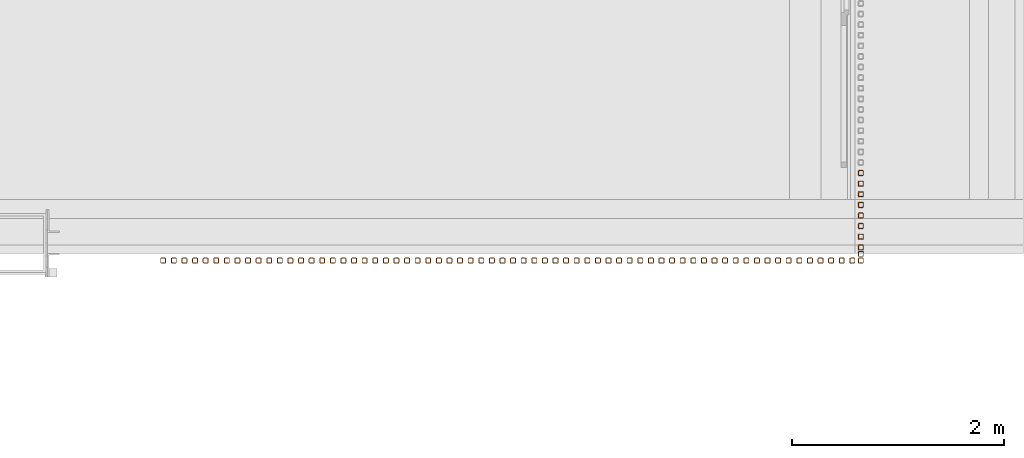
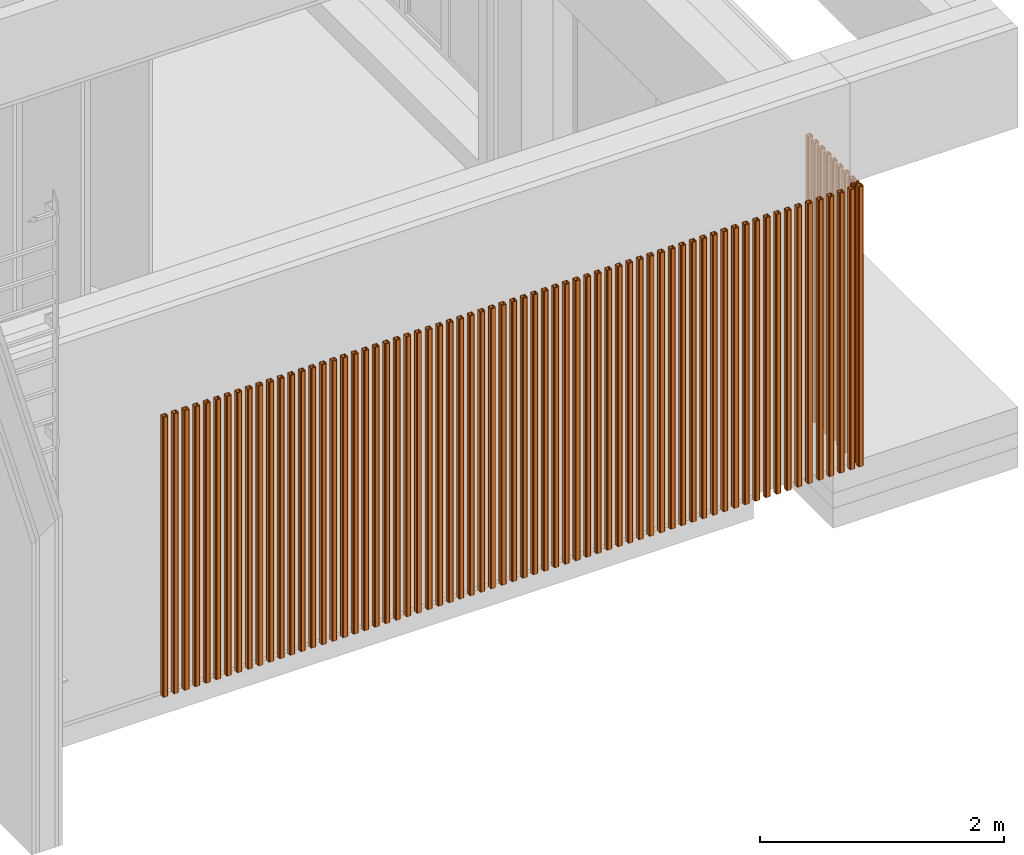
# One storey, part 66 of 112: 76 proxies.
"""IFC2X3 building model written with IfcOpenShell, lengths in millimetres."""

from ifc_helpers import new_model, entity, si_unit, converted_unit, derived_unit, money_unit, direction, frame, origin_with_axes, place, context, subcontext, project, spatial, faceted_brep, source, transform, mapped, material, type_object, element, save


model = new_model("IFC2X3")

# Units and contexts
model_context = context("Model", 3, precision=0.01, world=origin_with_axes(), true_north=direction((0.0, 1.0)))
body_context = subcontext(model_context, "Body", "Model", "MODEL_VIEW")
ifc_project = project(units=[si_unit("LENGTHUNIT", "METRE", prefix="MILLI"), si_unit("AREAUNIT", "SQUARE_METRE"), si_unit("VOLUMEUNIT", "CUBIC_METRE"), converted_unit("PLANEANGLEUNIT", "DEGREE", entity("IfcPlaneAngleMeasure", 0.0174532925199), si_unit("PLANEANGLEUNIT", "RADIAN"), dimensions=[0, 0, 0, 0, 0, 0, 0]), si_unit("SOLIDANGLEUNIT", "STERADIAN"), money_unit("EUR"), converted_unit("TIMEUNIT", "Year", entity("IfcTimeMeasure", 31556926.0), si_unit("TIMEUNIT", "SECOND"), dimensions=[0, 0, 1, 0, 0, 0, 0]), si_unit("MASSUNIT", "GRAM", prefix="KILO"), si_unit("THERMODYNAMICTEMPERATUREUNIT", "DEGREE_CELSIUS"), si_unit("LUMINOUSINTENSITYUNIT", "LUMEN"), si_unit("ENERGYUNIT", "JOULE", prefix="MEGA"), derived_unit("THERMALCONDUCTANCEUNIT", [(si_unit("POWERUNIT", "WATT"), 1), (si_unit("LENGTHUNIT", "METRE"), -1), (si_unit("THERMODYNAMICTEMPERATUREUNIT", "KELVIN"), -1)]), derived_unit("SPECIFICHEATCAPACITYUNIT", [(si_unit("ENERGYUNIT", "JOULE"), 1), (si_unit("MASSUNIT", "GRAM", prefix="KILO"), -1), (si_unit("THERMODYNAMICTEMPERATUREUNIT", "KELVIN"), -1)]), derived_unit("MASSDENSITYUNIT", [(si_unit("MASSUNIT", "GRAM", prefix="KILO"), 1), (si_unit("VOLUMEUNIT", "CUBIC_METRE"), -1)])], contexts=[model_context])

# Site, building, storey
site_placement = place(None, origin_with_axes())
site = spatial("IfcSite", under=ifc_project, at=site_placement, Name="Politse- ja Piirivalveameti ning Päästeameti ühishoone", CompositionType="ELEMENT")
building_placement = place(site_placement, origin_with_axes())
building = spatial("IfcBuilding", under=site, at=building_placement, Name="Politse- ja Piirivalveameti ning Päästeameti ühishoone", CompositionType="ELEMENT")
storey_placement = place(building_placement, origin_with_axes())
storey = spatial("IfcBuildingStorey", under=building, at=storey_placement, Name="Esimene korrus", CompositionType="ELEMENT", Elevation=0.0)

# Proxies
ifc_material = material(Name="ET-05_Teras")
building_element_proxy_type = type_object("IfcBuildingElementProxyType", Name="SHS Cold-Formed Column 23", PredefinedType="NOTDEFINED")
shared_shape = source(origin_with_axes(), body_context, "Body", "Brep", [
    faceted_brep([(-17.0, -25.0, 0.0), (17.0, -25.0, 0.0), (17.0, -25.0, 2800.0), (-17.0, -25.0, 2800.0), (-22.6568542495, -22.6568542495, 0.0), (-25.0, -17.0, 0.0), (-25.0, 17.0, 0.0), (-22.6568542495, 22.6568542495, 0.0), (-17.0, 25.0, 0.0), (17.0, 25.0, 0.0), (22.6568542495, 22.6568542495, 0.0), (25.0, 17.0, 0.0), (25.0, -17.0, 0.0), (22.6568542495, -22.6568542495, 0.0), (-17.0, -21.0, 0.0), (17.0, -21.0, 0.0), (19.8284271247, -19.8284271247, 0.0), (21.0, -17.0, 0.0), (21.0, 17.0, 0.0), (19.8284271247, 19.8284271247, 0.0), (17.0, 21.0, 0.0), (-17.0, 21.0, 0.0), (-19.8284271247, 19.8284271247, 0.0), (-21.0, 17.0, 0.0), (-21.0, -17.0, 0.0), (-19.8284271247, -19.8284271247, 0.0), (22.6568542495, -22.6568542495, 2800.0), (25.0, -17.0, 2800.0), (25.0, 17.0, 2800.0), (22.6568542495, 22.6568542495, 2800.0), (17.0, 25.0, 2800.0), (-17.0, 25.0, 2800.0), (-22.6568542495, 22.6568542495, 2800.0), (-25.0, 17.0, 2800.0), (-25.0, -17.0, 2800.0), (-22.6568542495, -22.6568542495, 2800.0), (-17.0, -21.0, 2800.0), (-19.8284271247, -19.8284271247, 2800.0), (-21.0, -17.0, 2800.0), (-21.0, 17.0, 2800.0), (-19.8284271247, 19.8284271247, 2800.0), (-17.0, 21.0, 2800.0), (17.0, 21.0, 2800.0), (19.8284271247, 19.8284271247, 2800.0), (21.0, 17.0, 2800.0), (21.0, -17.0, 2800.0), (19.8284271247, -19.8284271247, 2800.0), (17.0, -21.0, 2800.0)], [[[0, 1, 2, 3]], [[0, 4, 5, 6, 7, 8, 9, 10, 11, 12, 13, 1], [14, 15, 16, 17, 18, 19, 20, 21, 22, 23, 24, 25]], [[1, 13, 26, 2]], [[3, 2, 26, 27, 28, 29, 30, 31, 32, 33, 34, 35], [36, 37, 38, 39, 40, 41, 42, 43, 44, 45, 46, 47]], [[4, 0, 3, 35]], [[5, 4, 35, 34]], [[6, 5, 34, 33]], [[7, 6, 33, 32]], [[8, 7, 32, 31]], [[9, 8, 31, 30]], [[10, 9, 30, 29]], [[11, 10, 29, 28]], [[12, 11, 28, 27]], [[13, 12, 27, 26]], [[15, 14, 36, 47]], [[16, 15, 47, 46]], [[17, 16, 46, 45]], [[18, 17, 45, 44]], [[19, 18, 44, 43]], [[20, 19, 43, 42]], [[21, 20, 42, 41]], [[22, 21, 41, 40]], [[23, 22, 40, 39]], [[24, 23, 39, 38]], [[25, 24, 38, 37]], [[14, 25, 37, 36]]]),
])
for number, where, z_axis, x_axis in (
    (1, (62155.5638285, -575.0, 0.0), (0.0, 0.0, 1.0), (0.0, -1.0, 0.0)),
    (2, (62055.5638285, -575.0, 0.0), (0.0, 0.0, 1.0), (0.0, -1.0, 0.0)),
    (3, (62455.5638285, -575.0, 0.0), (0.0, 0.0, 1.0), (0.0, -1.0, 0.0)),
    (4, (62555.5638285, -575.0, 0.0), (0.0, 0.0, 1.0), (0.0, -1.0, 0.0)),
    (5, (62655.5638285, -575.0, 0.0), (0.0, 0.0, 1.0), (0.0, -1.0, 0.0)),
    (6, (62755.5638285, -575.0, 0.0), (0.0, 0.0, 1.0), (0.0, -1.0, 0.0)),
    (7, (62855.5638285, -575.0, 0.0), (0.0, 0.0, 1.0), (0.0, -1.0, 0.0)),
    (8, (62955.5638285, -575.0, 0.0), (0.0, 0.0, 1.0), (0.0, -1.0, 0.0)),
    (9, (63055.5638285, -575.0, 0.0), (0.0, 0.0, 1.0), (0.0, -1.0, 0.0)),
    (10, (63155.5638285, -575.0, 0.0), (0.0, 0.0, 1.0), (0.0, -1.0, 0.0)),
    (11, (63255.5638285, -575.0, 0.0), (0.0, 0.0, 1.0), (0.0, -1.0, 0.0)),
    (12, (63355.5638285, -575.0, 0.0), (0.0, 0.0, 1.0), (0.0, -1.0, 0.0)),
    (13, (63455.5638285, -575.0, 0.0), (0.0, 0.0, 1.0), (0.0, -1.0, 0.0)),
    (14, (63555.5638285, -575.0, 0.0), (0.0, 0.0, 1.0), (0.0, -1.0, 0.0)),
    (15, (63655.5638285, -575.0, 0.0), (0.0, 0.0, 1.0), (0.0, -1.0, 0.0)),
    (16, (63755.5638285, -575.0, 0.0), (0.0, 0.0, 1.0), (0.0, -1.0, 0.0)),
    (17, (63855.5638285, -575.0, 0.0), (0.0, 0.0, 1.0), (0.0, -1.0, 0.0)),
    (18, (63955.5638285, -575.0, 0.0), (0.0, 0.0, 1.0), (0.0, -1.0, 0.0)),
    (19, (64055.5638285, -575.0, 0.0), (0.0, 0.0, 1.0), (0.0, -1.0, 0.0)),
    (20, (64155.5638285, -575.0, 0.0), (0.0, 0.0, 1.0), (0.0, -1.0, 0.0)),
    (21, (64255.5638285, -575.0, 0.0), (0.0, 0.0, 1.0), (0.0, -1.0, 0.0)),
    (22, (64355.5638285, -575.0, 0.0), (0.0, 0.0, 1.0), (0.0, -1.0, 0.0)),
    (23, (64455.5638285, -575.0, 0.0), (0.0, 0.0, 1.0), (0.0, -1.0, 0.0)),
    (24, (64555.5638285, -575.0, 0.0), (0.0, 0.0, 1.0), (0.0, -1.0, 0.0)),
    (25, (64655.5638285, -575.0, 0.0), (0.0, 0.0, 1.0), (0.0, -1.0, 0.0)),
    (26, (64755.5638285, -575.0, 0.0), (0.0, 0.0, 1.0), (0.0, -1.0, 0.0)),
    (27, (64855.5638285, -575.0, 0.0), (0.0, 0.0, 1.0), (0.0, -1.0, 0.0)),
    (28, (64955.5638285, -575.0, 0.0), (0.0, 0.0, 1.0), (0.0, -1.0, 0.0)),
    (29, (65055.5638285, -575.0, 0.0), (0.0, 0.0, 1.0), (0.0, -1.0, 0.0)),
    (30, (65155.5638285, -575.0, 0.0), (0.0, 0.0, 1.0), (0.0, -1.0, 0.0)),
    (31, (65255.5638285, -575.0, 0.0), (0.0, 0.0, 1.0), (0.0, -1.0, 0.0)),
    (32, (65355.5638285, -575.0, 0.0), (0.0, 0.0, 1.0), (0.0, -1.0, 0.0)),
    (33, (65455.5638285, -575.0, 0.0), (0.0, 0.0, 1.0), (0.0, -1.0, 0.0)),
    (34, (68555.5638285, -575.0, 0.0), (0.0, 0.0, 1.0), (0.0, -1.0, 0.0)),
    (35, (62355.5638285, -575.0, 0.0), (0.0, 0.0, 1.0), (0.0, -1.0, 0.0)),
    (36, (62255.5638285, -575.0, 0.0), (0.0, 0.0, 1.0), (0.0, -1.0, 0.0)),
    (37, (68455.5638285, -575.0, 0.0), (0.0, 0.0, 1.0), (0.0, -1.0, 0.0)),
    (38, (68355.5638285, -575.0, 0.0), (0.0, 0.0, 1.0), (0.0, -1.0, 0.0)),
    (39, (68255.5638285, -575.0, 0.0), (0.0, 0.0, 1.0), (0.0, -1.0, 0.0)),
    (40, (68155.5638285, -575.0, 0.0), (0.0, 0.0, 1.0), (0.0, -1.0, 0.0)),
    (41, (68055.5638285, -575.0, 0.0), (0.0, 0.0, 1.0), (0.0, -1.0, 0.0)),
    (42, (67955.5638285, -575.0, 0.0), (0.0, 0.0, 1.0), (0.0, -1.0, 0.0)),
    (43, (67855.5638285, -575.0, 0.0), (0.0, 0.0, 1.0), (0.0, -1.0, 0.0)),
    (44, (67755.5638285, -575.0, 0.0), (0.0, 0.0, 1.0), (0.0, -1.0, 0.0)),
    (45, (67655.5638285, -575.0, 0.0), (0.0, 0.0, 1.0), (0.0, -1.0, 0.0)),
    (46, (67555.5638285, -575.0, 0.0), (0.0, 0.0, 1.0), (0.0, -1.0, 0.0)),
    (47, (67455.5638285, -575.0, 0.0), (0.0, 0.0, 1.0), (0.0, -1.0, 0.0)),
    (48, (67355.5638285, -575.0, 0.0), (0.0, 0.0, 1.0), (0.0, -1.0, 0.0)),
    (49, (67255.5638285, -575.0, 0.0), (0.0, 0.0, 1.0), (0.0, -1.0, 0.0)),
    (50, (67155.5638285, -575.0, 0.0), (0.0, 0.0, 1.0), (0.0, -1.0, 0.0)),
    (51, (67055.5638285, -575.0, 0.0), (0.0, 0.0, 1.0), (0.0, -1.0, 0.0)),
    (52, (66955.5638285, -575.0, 0.0), (0.0, 0.0, 1.0), (0.0, -1.0, 0.0)),
    (53, (66855.5638285, -575.0, 0.0), (0.0, 0.0, 1.0), (0.0, -1.0, 0.0)),
    (54, (66755.5638285, -575.0, 0.0), (0.0, 0.0, 1.0), (0.0, -1.0, 0.0)),
    (55, (66655.5638285, -575.0, 0.0), (0.0, 0.0, 1.0), (0.0, -1.0, 0.0)),
    (56, (66555.5638285, -575.0, 0.0), (0.0, 0.0, 1.0), (0.0, -1.0, 0.0)),
    (57, (66455.5638285, -575.0, 0.0), (0.0, 0.0, 1.0), (0.0, -1.0, 0.0)),
    (58, (66355.5638285, -575.0, 0.0), (0.0, 0.0, 1.0), (0.0, -1.0, 0.0)),
    (59, (66255.5638285, -575.0, 0.0), (0.0, 0.0, 1.0), (0.0, -1.0, 0.0)),
    (60, (66155.5638285, -575.0, 0.0), (0.0, 0.0, 1.0), (0.0, -1.0, 0.0)),
    (61, (66055.5638285, -575.0, 0.0), (0.0, 0.0, 1.0), (0.0, -1.0, 0.0)),
    (62, (65955.5638285, -575.0, 0.0), (0.0, 0.0, 1.0), (0.0, -1.0, 0.0)),
    (63, (65855.5638285, -575.0, 0.0), (0.0, 0.0, 1.0), (0.0, -1.0, 0.0)),
    (64, (65755.5638285, -575.0, 0.0), (0.0, 0.0, 1.0), (0.0, -1.0, 0.0)),
    (65, (65655.5638285, -575.0, 0.0), (0.0, 0.0, 1.0), (0.0, -1.0, 0.0)),
    (66, (65555.5638285, -575.0, 0.0), (0.0, 0.0, 1.0), (0.0, -1.0, 0.0)),
    (67, (68635.2095212, -575.0, 0.0), (0.0, 0.0, 1.0), (1.0, 0.0, 0.0)),
    (68, (68635.2095212, 250.070244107, 0.0), (0.0, 0.0, 1.0), (1.0, 0.0, 0.0)),
    (69, (68635.2095212, 150.070244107, 0.0), (0.0, 0.0, 1.0), (1.0, 0.0, 0.0)),
    (70, (68635.2095212, 50.0702441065, 0.0), (0.0, 0.0, 1.0), (1.0, 0.0, 0.0)),
    (71, (68635.2095212, -49.9297558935, 0.0), (0.0, 0.0, 1.0), (1.0, 0.0, 0.0)),
    (72, (68635.2095212, -149.929755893, 0.0), (0.0, 0.0, 1.0), (1.0, 0.0, 0.0)),
    (73, (68635.2095212, -249.929755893, 0.0), (0.0, 0.0, 1.0), (1.0, 0.0, 0.0)),
    (74, (68635.2095212, -349.929755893, 0.0), (0.0, 0.0, 1.0), (1.0, 0.0, 0.0)),
    (75, (68635.2095212, -449.929755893, 0.0), (0.0, 0.0, 1.0), (1.0, 0.0, 0.0)),
    (76, (68635.2095212, -511.407889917, 0.0), (0.0, 0.0, 1.0), (1.0, 0.0, 0.0)),
):
    element("IfcBuildingElementProxy", number, at=place(storey_placement, frame(where, z_axis=z_axis, x_axis=x_axis)), inside=storey, type_object=building_element_proxy_type, material=ifc_material, Name="Fassaadiribid", context=body_context, shape_type="MappedRepresentation", body=[
        mapped(shared_shape, transform((0.0, 0.0, 0.0))),
    ])

save(model, "model.ifc")
